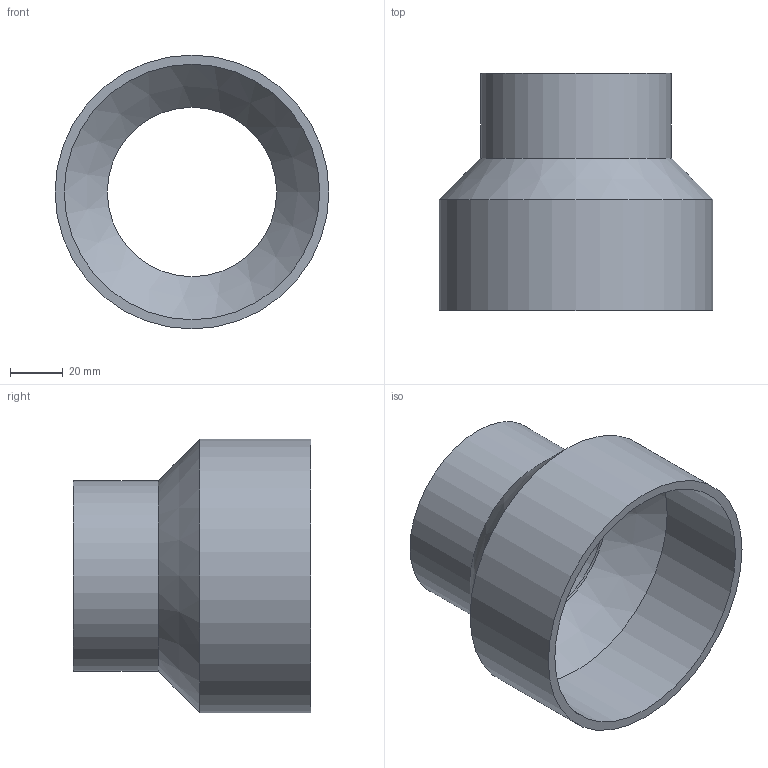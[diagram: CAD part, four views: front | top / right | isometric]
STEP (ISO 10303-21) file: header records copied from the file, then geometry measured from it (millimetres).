
FILE_DESCRIPTION(/* description */ (''),/* implementation_level */ '2;1');
FILE_NAME(/* name */ 'P:\Adapter\Schweißstutzen und Schweißadapter\A 104a_67i.stp',/* time_stamp */ '2019-04-01T13:21:44+02:00',/* author */ ('neufeld'),/* organization */ (''),/* preprocessor_version */ 'ST-DEVELOPER v17',/* originating_system */ 'Autodesk Inventor 2019',/* authorisation */ '');
FILE_SCHEMA (('AUTOMOTIVE_DESIGN { 1 0 10303 214 3 1 1 }'));
Length unit declared in the file: millimetre
Products named in the file (1): A 104a_67i
Bounding box: 104 x 90 x 104 mm (x, y, z)
Volume: 100466.1 mm3; surface area: 54069.8 mm2
Topology: 1 solids, 1 shells, 10 faces, 27 edges, 20 vertices
Faces by surface type: cylinder 5, plane 3, cone 2
Full cylindrical faces by diameter (mm): 64.3 x1, 67.3 x1, 72.5 x1, 97 x1, 104 x1
Entity records: 382 total; most frequent: DIRECTION 69, CARTESIAN_POINT 58, ORIENTED_EDGE 54, AXIS2_PLACEMENT_3D 31, EDGE_CURVE 27, CIRCLE 20, VERTEX_POINT 20, EDGE_LOOP 13
